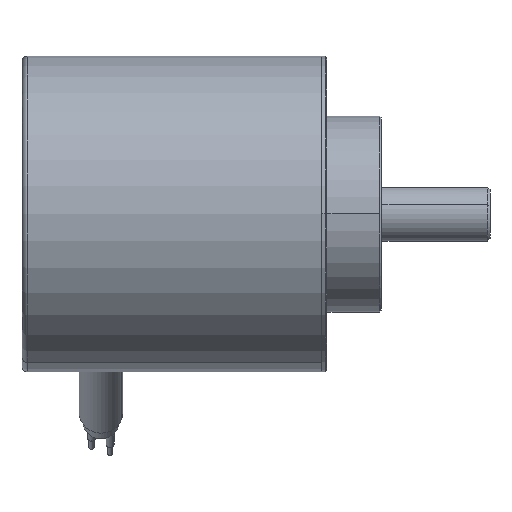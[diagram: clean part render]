
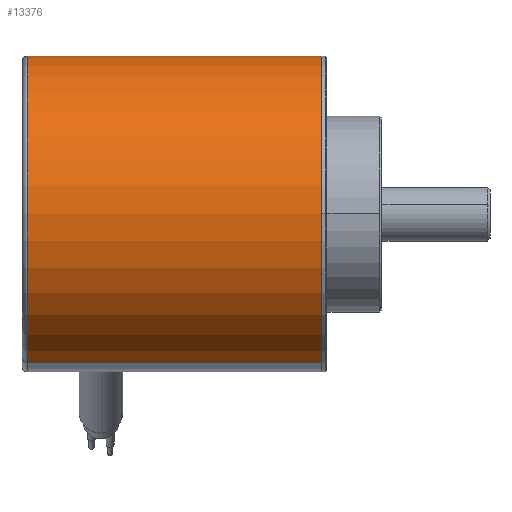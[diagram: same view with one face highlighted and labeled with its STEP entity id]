
A CAD part, top view. The second image highlights one B-rep face of the part: STEP entity #13376.
In plain terms, the highlighted cylindrical face has radius 29 mm (diameter 58 mm), a partial arc.
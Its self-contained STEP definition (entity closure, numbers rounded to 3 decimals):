
#5817 = VERTEX_POINT ( 'NONE', #7732 ) ;
#5820 = VERTEX_POINT ( 'NONE', #7726 ) ;
#7726 = CARTESIAN_POINT ( 'NONE',  ( -39., -27.245, 9.935 ) ) ;
#7732 = CARTESIAN_POINT ( 'NONE',  ( -39., 27.245, -9.935 ) ) ;
#9400 = DIRECTION ( 'NONE',  ( 0., -0.939, 0.343 ) ) ;
#9401 = DIRECTION ( 'NONE',  ( 1., 0., 0. ) ) ;
#9402 = CARTESIAN_POINT ( 'NONE',  ( 15., 0., 0. ) ) ;
#9403 = AXIS2_PLACEMENT_3D ( 'NONE', #9402, #9401, #9400 ) ;
#9404 = CIRCLE ( 'NONE', #9403, 29. ) ;
#9472 = DIRECTION ( 'NONE',  ( -1., 0., 0. ) ) ;
#9473 = VECTOR ( 'NONE', #9472, 1000. ) ;
#9474 = CARTESIAN_POINT ( 'NONE',  ( 15., 27.245, -9.935 ) ) ;
#9475 = LINE ( 'NONE', #9474, #9473 ) ;
#9507 = DIRECTION ( 'NONE',  ( 0., 0.939, -0.343 ) ) ;
#9508 = DIRECTION ( 'NONE',  ( -1., 0., 0. ) ) ;
#9509 = CARTESIAN_POINT ( 'NONE',  ( 15., 0., 0. ) ) ;
#9510 = AXIS2_PLACEMENT_3D ( 'NONE', #9509, #9508, #9507 ) ;
#9511 = CYLINDRICAL_SURFACE ( 'NONE', #9510, 29. ) ;
#9526 = FACE_OUTER_BOUND ( 'NONE', #13377, .T. ) ;
#10415 = DIRECTION ( 'NONE',  ( -1., 0., 0. ) ) ;
#10416 = VECTOR ( 'NONE', #10415, 1000. ) ;
#10417 = CARTESIAN_POINT ( 'NONE',  ( 15., -27.245, 9.935 ) ) ;
#10418 = LINE ( 'NONE', #10417, #10416 ) ;
#10452 = DIRECTION ( 'NONE',  ( 0., -0.939, 0.343 ) ) ;
#10453 = DIRECTION ( 'NONE',  ( 1., 0., 0. ) ) ;
#10454 = CARTESIAN_POINT ( 'NONE',  ( -39., 0., 0. ) ) ;
#10455 = AXIS2_PLACEMENT_3D ( 'NONE', #10454, #10453, #10452 ) ;
#10456 = CIRCLE ( 'NONE', #10455, 29. ) ;
#10948 = CARTESIAN_POINT ( 'NONE',  ( 15., -27.245, 9.935 ) ) ;
#10972 = CARTESIAN_POINT ( 'NONE',  ( 15., 27.245, -9.935 ) ) ;
#13375 = EDGE_CURVE ( 'NONE', #13652, #5817, #9475, .T. ) ;
#13376 = ADVANCED_FACE ( 'NONE', ( #9526 ), #9511, .T. ) ;
#13377 = EDGE_LOOP ( 'NONE', ( #13378, #13379, #13569, #13570 ) ) ;
#13378 = ORIENTED_EDGE ( 'NONE', *, *, #13588, .F. ) ;
#13379 = ORIENTED_EDGE ( 'NONE', *, *, #13380, .F. ) ;
#13380 = EDGE_CURVE ( 'NONE', #13652, #13657, #9404, .T. ) ;
#13569 = ORIENTED_EDGE ( 'NONE', *, *, #13375, .T. ) ;
#13570 = ORIENTED_EDGE ( 'NONE', *, *, #13571, .T. ) ;
#13571 = EDGE_CURVE ( 'NONE', #5817, #5820, #10456, .T. ) ;
#13588 = EDGE_CURVE ( 'NONE', #13657, #5820, #10418, .T. ) ;
#13652 = VERTEX_POINT ( 'NONE', #10972 ) ;
#13657 = VERTEX_POINT ( 'NONE', #10948 ) ;
